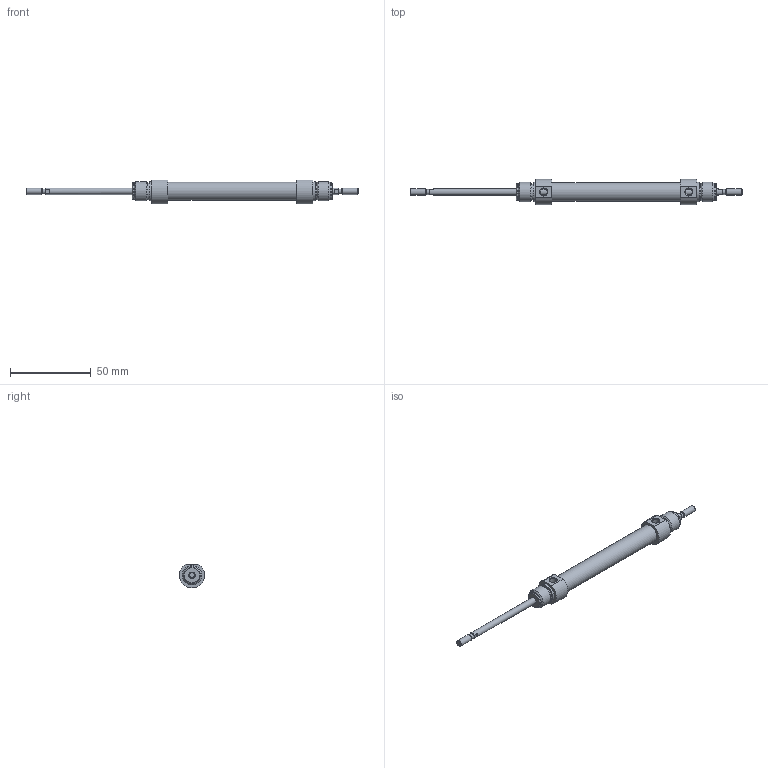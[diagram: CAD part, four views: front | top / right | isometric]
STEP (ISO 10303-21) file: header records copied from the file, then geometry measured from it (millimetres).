
FILE_DESCRIPTION( ( 'STEP AP203' ), '1' );
FILE_NAME( '//expscmdclustefs.cadenas.external/client_exchange/iodir/jobs/output/wkb68274419_no0/STEP/M101-010-0050-M__0__2_03.stp', ' ', ( ' ' ), ( ' ' ), 'PSStep 15.0.47', 'PARTsolutions', ' ' );
FILE_SCHEMA( ( 'CONFIG_CONTROL_DESIGN' ) );
Length unit declared in the file: millimetre
Products named in the file (3): M101-010-0050-M [0]; HI_M101-010-0050-M-[0]-z; HI_M101-010-0050-M-[0]-k
Assembly tree (2 placements, depth 2):
  M101-010-0050-M [0]
    HI_M101-010-0050-M-[0]-z
    HI_M101-010-0050-M-[0]-k
Bounding box: 206 x 15.77 x 14.87 mm (x, y, z)
Volume: 11953.9 mm3; surface area: 10881.1 mm2
Topology: 2 solids, 2 shells, 71 faces, 145 edges, 88 vertices
Faces by surface type: plane 32, cylinder 23, cone 14, torus 2
Full cylindrical faces by diameter (mm): 3.141 x2, 4 x6, 4.134 x2, 10 x2, 10.466 x4, 11.3 x1, 12 x4
Entity records: 1838 total; most frequent: CARTESIAN_POINT 358, DIRECTION 312, ORIENTED_EDGE 212, AXIS2_PLACEMENT_3D 140, EDGE_LOOP 120, EDGE_CURVE 106, FACE_OUTER_BOUND 94, VERTEX_POINT 82
